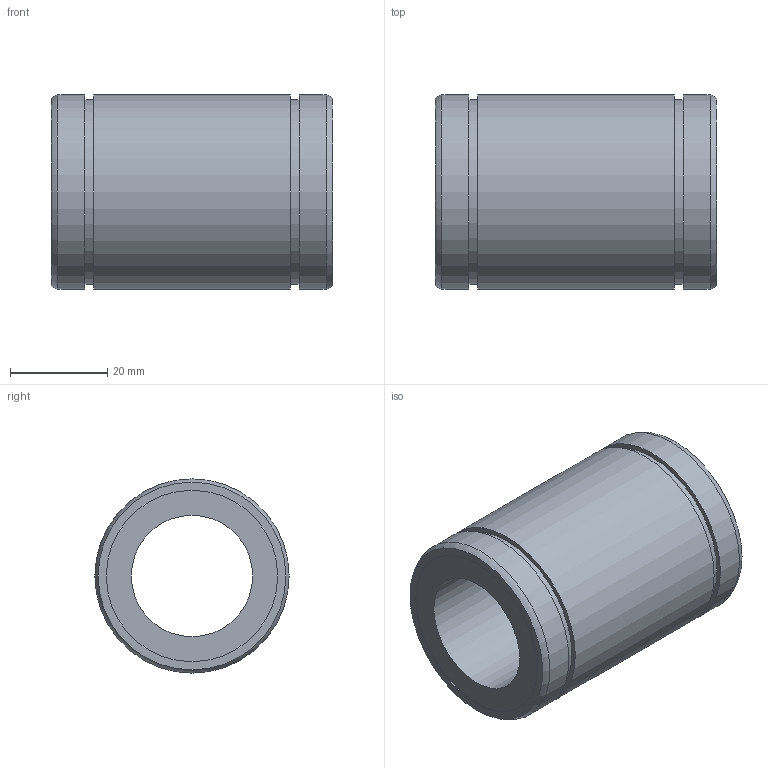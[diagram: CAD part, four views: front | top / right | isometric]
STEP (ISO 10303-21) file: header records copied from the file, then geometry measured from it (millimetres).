
FILE_DESCRIPTION((''),'2;1');
FILE_NAME('D:\製品 (図面)\カタログ用3D\リニアベアリング関連\STEP形式\LE\LE25.stp','2010-06-03T09:05:41',('Tsuchiya'),(''),'Autodesk Inventor 10','Autodesk Inventor 10','');
FILE_SCHEMA(('AUTOMOTIVE_DESIGN { 1 0 10303 214 1 1 1 1 }'));
Length unit declared in the file: millimetre
Products named in the file (1): LE25
Bounding box: 58 x 40 x 40 mm (x, y, z)
Volume: 43764.7 mm3; surface area: 13717.4 mm2
Topology: 1 solids, 1 shells, 18 faces, 28 edges, 18 vertices
Faces by surface type: plane 8, cylinder 8, torus 2
Full cylindrical faces by diameter (mm): 25 x1, 35.3 x2, 38 x2, 40 x3
Entity records: 391 total; most frequent: DIRECTION 74, CARTESIAN_POINT 55, AXIS2_PLACEMENT_3D 37, ORIENTED_EDGE 36, EDGE_LOOP 36, VERTEX_POINT 18, CIRCLE 18, EDGE_CURVE 18
